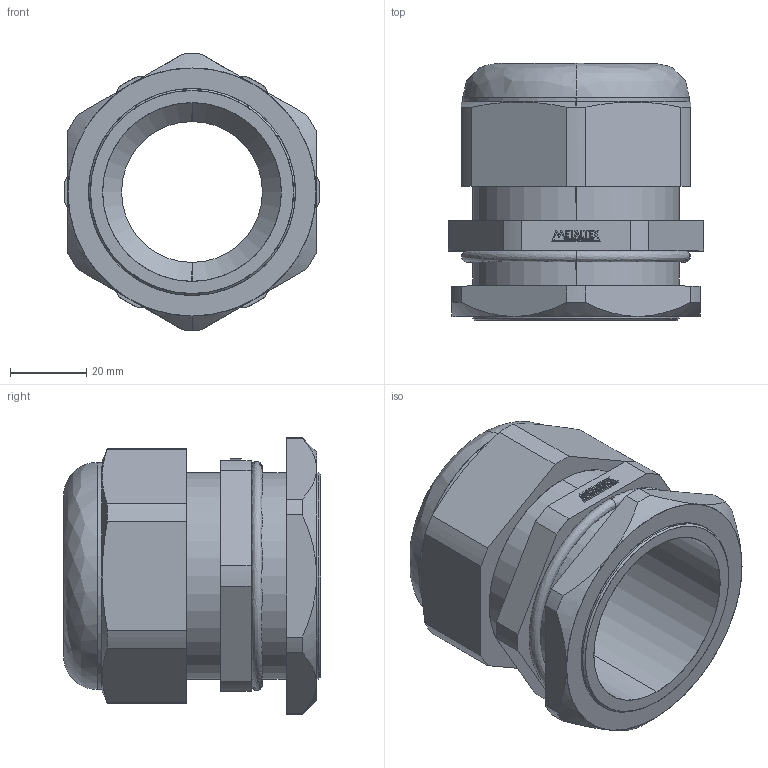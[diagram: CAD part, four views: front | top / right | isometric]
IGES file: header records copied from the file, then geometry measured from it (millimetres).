
Start section: SolidWorks IGES file using analytic representation for surfaces
Global section: file name: D:\X - Arquivos\PROEX\Empresas\P11 - METALTEX\01 - Produtos\IGES\Terceira remessa\Etapa 2\CH-PG42.IGS; native system: SolidWorks 2012; preprocessor: SolidWorks 2012; author: Usuario; date: 180207.123440; units: millimetre
Bounding box: 67 x 67.35 x 72.44 mm (x, y, z)
Surface area: 29745.2 mm2 (no closed solid volume)
Topology: 0 solids, 0 shells, 174 faces, 1637 edges, 1637 vertices
Faces by surface type: bspline 125, revolution 49
